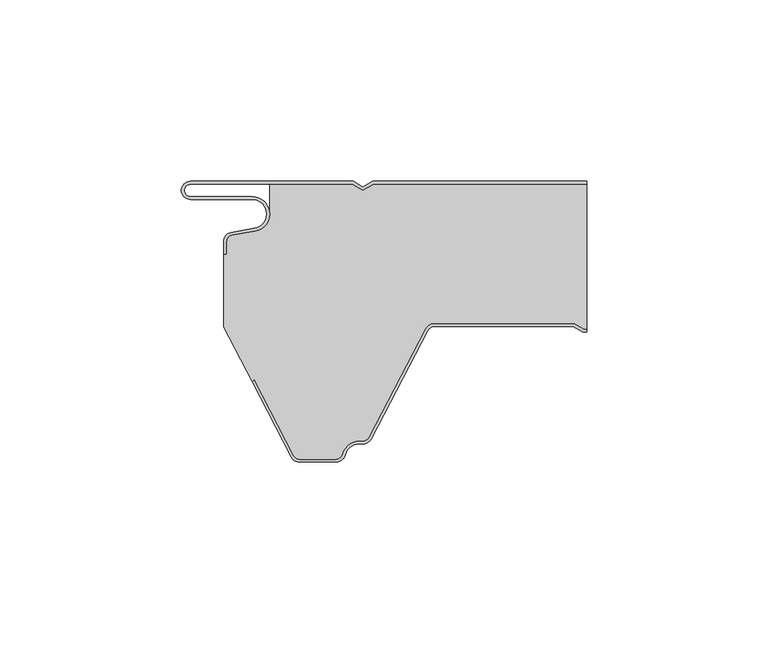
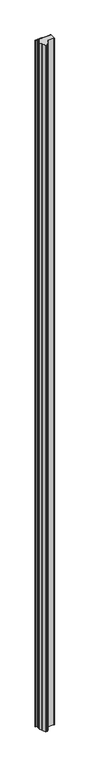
"""IFC4 building model written with IfcOpenShell, lengths in millimetres: plate geometry, P5G_5-Rib-Roof-Panel-PUR-PIR_Curtain-Panel : ACH_P5G_Rib-Roof-Panel-PIR-P5G_40mm."""

from ifc_helpers import new_model, si_unit, frame, origin, place, context, project, spatial, polyline, circle_curve, source, transform, mapped, element, save
from ifc_brep_helpers import plane_surface, cylinder_surface, revolved_surface, advanced_brep


def plate_fd8aca23(model_context):
    return source(origin(), model_context, "Body", "AdvancedBrep", [
        advanced_brep(
        [(-50.0, -16.636349, 5000.0), (-50.0, -20.0, 5000.0), (-49.2, -20.0, 5000.0), (-49.2, -16.636349, 5000.0), (-47.7125667, -14.863695, 5000.0), (-41.266489, -13.7270771, 5000.0), (-42.1, -4.2, 5000.0), (-59.1, -4.2, 5000.0), (-59.1, -0.8, 5000.0), (-14.5143588, -0.8, 5000.0), (-11.6, -2.4826072, 5000.0), (-8.6856412, -0.8, 5000.0), (50.0, -0.8, 5000.0), (50.0, 0.0, 5000.0), (-8.9000007, 0.0, 5000.0), (-11.6, -1.5588466, 5000.0), (-14.2999993, 0.0, 5000.0), (-59.1, 0.0, 5000.0), (-59.1, -5.0, 5000.0), (-42.1, -5.0, 5000.0), (-41.4054075, -12.939231, 5000.0), (-47.851485, -14.075848, 5000.0), (-50.0, -16.636349, 0.0), (-47.8514853, -14.0758488, 0.0), (-41.4054075, -12.9392309, 0.0), (-42.1, -5.0, 0.0), (-59.1, -5.0, 0.0), (-59.1, 0.0, 0.0), (-14.2999993, 0.0, 0.0), (-11.6, -1.5588466, 0.0), (-8.9000007, 0.0, 0.0), (50.0, 0.0, 0.0), (50.0, -0.8, 0.0), (-8.6856412, -0.8, 0.0), (-11.6, -2.4826072, 0.0), (-14.5143588, -0.8, 0.0), (-59.1, -0.8, 0.0), (-59.1, -4.2, 0.0), (-42.1, -4.2, 0.0), (-41.266489, -13.7270773, 0.0), (-47.7125665, -14.8636942, 0.0), (-49.2, -16.636349, 0.0), (-49.2, -20.0, 0.0), (-50.0, -20.0, 0.0)],
        [
            (0, 1),
            (1, 2),
            (2, 3),
            (3, 4, circle_curve(frame((-47.4, -16.636349, 5000.0), z_axis=(0.0, 0.0, -1.0), x_axis=(1.0, 0.0, 0.0)), 1.8)),
            (4, 5),
            (5, 6, circle_curve(frame((-42.1, -9.0, 5000.0), z_axis=(0.0, 0.0, 1.0), x_axis=(1.0, 0.0, 0.0)), 4.8)),
            (6, 7),
            (7, 8, circle_curve(frame((-59.1, -2.5, 5000.0), z_axis=(0.0, 0.0, -1.0), x_axis=(1.0, 0.0, 0.0)), 1.7)),
            (8, 9),
            (9, 10),
            (10, 11),
            (11, 12),
            (12, 13),
            (13, 14),
            (14, 15),
            (15, 16),
            (16, 17),
            (17, 18, circle_curve(frame((-59.1, -2.5, 5000.0), z_axis=(0.0, 0.0, 1.0), x_axis=(1.0, 0.0, 0.0)), 2.5)),
            (18, 19),
            (19, 20, circle_curve(frame((-42.1, -9.0, 5000.0), z_axis=(0.0, 0.0, -1.0), x_axis=(1.0, 0.0, 0.0)), 4.0)),
            (20, 21),
            (21, 0, circle_curve(frame((-47.4, -16.636349, 5000.0), z_axis=(0.0, 0.0, 1.0), x_axis=(1.0, 0.0, 0.0)), 2.6)),
            (22, 23, circle_curve(frame((-47.4, -16.636349, 0.0), z_axis=(0.0, 0.0, -1.0), x_axis=(1.0, 0.0, 0.0)), 2.6)),
            (23, 24),
            (24, 25, circle_curve(frame((-42.1, -9.0, 0.0), z_axis=(0.0, 0.0, 1.0), x_axis=(1.0, 0.0, 0.0)), 4.0)),
            (25, 26),
            (26, 27, circle_curve(frame((-59.1, -2.5, 0.0), z_axis=(0.0, 0.0, -1.0), x_axis=(1.0, 0.0, 0.0)), 2.5)),
            (27, 28),
            (28, 29),
            (29, 30),
            (30, 31),
            (31, 32),
            (32, 33),
            (33, 34),
            (34, 35),
            (35, 36),
            (36, 37, circle_curve(frame((-59.1, -2.5, 0.0), z_axis=(0.0, 0.0, 1.0), x_axis=(1.0, 0.0, 0.0)), 1.7)),
            (37, 38),
            (38, 39, circle_curve(frame((-42.1, -9.0, 0.0), z_axis=(0.0, 0.0, -1.0), x_axis=(1.0, 0.0, 0.0)), 4.8)),
            (39, 40),
            (40, 41, circle_curve(frame((-47.4, -16.636349, 0.0), z_axis=(0.0, 0.0, 1.0), x_axis=(1.0, 0.0, 0.0)), 1.8)),
            (41, 42),
            (42, 43),
            (43, 22),
            (0, 22),
            (43, 1),
            (42, 2),
            (41, 3),
            (40, 4),
            (39, 5),
            (38, 6),
            (37, 7),
            (36, 8),
            (35, 9),
            (34, 10),
            (33, 11),
            (32, 12),
            (30, 14),
            (13, 31),
            (29, 15),
            (28, 16),
            (27, 17),
            (26, 18),
            (25, 19),
            (24, 20),
            (23, 21),
        ],
        [
            plane_surface(frame((-50.0, 0.0, 5000.0), z_axis=(0.0, 0.0, 1.0), x_axis=(0.0, 1.0, 0.0))),
            plane_surface(frame((-50.0, 0.0, 0.0), z_axis=(0.0, 0.0, -1.0), x_axis=(0.0, 1.0, 0.0))),
            plane_surface(frame((-50.0, -16.636349, 5000.0), z_axis=(-1.0, 0.0, 0.0), x_axis=(0.0, 0.0, -1.0))),
            plane_surface(frame((-50.0, -20.0, 5000.0), z_axis=(0.0, -1.0, 0.0), x_axis=(0.0, 0.0, -1.0))),
            plane_surface(frame((-49.2, -20.0, 5000.0), z_axis=(1.0, 0.0, 0.0), x_axis=(0.0, 0.0, -1.0))),
            revolved_surface(polyline([(-45.6, -16.636349, 0.0), (-45.6, -16.636349, 5000.0)]), (-47.4, -16.636349, 5000.0), (0.0, 0.0, -1.0)),
            plane_surface(frame((-47.7125665, -14.8636942, 5000.0), z_axis=(0.17364813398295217, -0.9848077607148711, 0.0), x_axis=(0.0, 0.0, -1.0))),
            cylinder_surface(frame((-42.1, -9.0, 5000.0), z_axis=(0.0, 0.0, 1.0), x_axis=(1.0, 0.0, 0.0)), 4.8),
            plane_surface(frame((-42.1, -4.2, 5000.0), z_axis=(0.0, 1.0, 0.0), x_axis=(0.0, 0.0, -1.0))),
            revolved_surface(polyline([(-57.4, -2.5, 0.0), (-57.4, -2.5, 5000.0)]), (-59.1, -2.5, 5000.0), (0.0, 0.0, -1.0)),
            plane_surface(frame((-59.1, -0.8, 5000.0), z_axis=(0.0, -1.0, 0.0), x_axis=(0.0, 0.0, -1.0))),
            plane_surface(frame((-14.5143588, -0.8, 5000.0), z_axis=(-0.5000003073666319, -0.8660252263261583, 0.0), x_axis=(0.0, 0.0, -1.0))),
            plane_surface(frame((-11.6, -2.4826072, 5000.0), z_axis=(0.5000003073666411, -0.866025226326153, 0.0), x_axis=(0.0, 0.0, -1.0))),
            plane_surface(frame((-8.6856412, -0.8, 5000.0), z_axis=(0.0, -1.0, 0.0), x_axis=(0.0, 0.0, -1.0))),
            plane_surface(frame((85.7000007, 0.0, 5000.0), z_axis=(0.0, 1.0, 0.0), x_axis=(0.0, 0.0, -1.0))),
            plane_surface(frame((-8.9000007, 0.0, 5000.0), z_axis=(-0.5000003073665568, 0.8660252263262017, 0.0), x_axis=(0.0, 0.0, -1.0))),
            plane_surface(frame((-11.6, -1.5588466, 5000.0), z_axis=(0.5000003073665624, 0.8660252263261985, 0.0), x_axis=(0.0, 0.0, -1.0))),
            plane_surface(frame((-14.2999993, 0.0, 5000.0), z_axis=(0.0, 1.0, 0.0), x_axis=(0.0, 0.0, -1.0))),
            cylinder_surface(frame((-59.1, -2.5, 5000.0), z_axis=(0.0, 0.0, 1.0), x_axis=(1.0, 0.0, 0.0)), 2.5),
            plane_surface(frame((-59.1, -5.0, 5000.0), z_axis=(0.0, -1.0, 0.0), x_axis=(0.0, 0.0, -1.0))),
            revolved_surface(polyline([(-38.1, -9.0, 0.0), (-38.1, -9.0, 5000.0)]), (-42.1, -9.0, 5000.0), (0.0, 0.0, -1.0)),
            plane_surface(frame((-41.4054075, -12.9392309, 5000.0), z_axis=(-0.17364813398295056, 0.9848077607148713, 0.0), x_axis=(0.0, 0.0, -1.0))),
            cylinder_surface(frame((-47.4, -16.636349, 5000.0), z_axis=(0.0, 0.0, 1.0), x_axis=(1.0, 0.0, 0.0)), 2.6),
            plane_surface(frame((50.0, 0.0, 5000.0), z_axis=(1.0, 0.0, 0.0), x_axis=(0.0, 0.0, -1.0))),
        ],
        [
            (0, [[1, 2, 3, 4, 5, 6, 7, 8, 9, 10, 11, 12, 13, 14, 15, 16, 17, 18, 19, 20, 21, 22]]),
            (1, [[23, 24, 25, 26, 27, 28, 29, 30, 31, 32, 33, 34, 35, 36, 37, 38, 39, 40, 41, 42, 43, 44]]),
            (2, [[-1, 45, -44, 46]]),
            (3, [[-2, -46, -43, 47]]),
            (4, [[-3, -47, -42, 48]]),
            (5, [[-4, -48, -41, 49]]),
            (6, [[-5, -49, -40, 50]]),
            (7, [[-6, -50, -39, 51]]),
            (8, [[-7, -51, -38, 52]]),
            (9, [[-8, -52, -37, 53]]),
            (10, [[-9, -53, -36, 54]]),
            (11, [[-10, -54, -35, 55]]),
            (12, [[-11, -55, -34, 56]]),
            (13, [[-56, -33, 57, -12]]),
            (14, [[58, -14, 59, -31]]),
            (15, [[-15, -58, -30, 60]]),
            (16, [[-16, -60, -29, 61]]),
            (17, [[-17, -61, -28, 62]]),
            (18, [[-18, -62, -27, 63]]),
            (19, [[-19, -63, -26, 64]]),
            (20, [[-20, -64, -25, 65]]),
            (21, [[-21, -65, -24, 66]]),
            (22, [[-22, -66, -23, -45]]),
            (23, [[-13, -57, -32, -59]]),
        ],
    ),
        advanced_brep(
        [(-30.6207387, -75.6314818, 0.0), (-41.5569015, -54.6340495, 0.0), (-42.1499858, -55.2271753, 0.0), (-50.0, -40.1551481, 0.0), (-50.0, -20.0, 0.0), (-49.2, -20.0, 0.0), (-49.2, -16.636349, 0.0), (-47.7125653, -14.8636948, 0.0), (-41.2664891, -13.7270773, 0.0), (-37.3182654, -8.5816526, 0.0), (-37.3182654, -0.8, 0.0), (-14.5143588, -0.8, 0.0), (-11.6, -2.4826072, 0.0), (-8.6856412, -0.8, 0.0), (50.0, -0.8, 0.0), (50.0, -40.7, 0.0), (49.2107961, -40.7, 0.0), (46.6127185, -39.2, 0.0), (8.090871, -39.2, 0.0), (5.6075115, -40.7065836, 0.0), (-9.9783733, -70.6314825, 0.0), (-11.574819, -71.6, 0.0), (-12.6272901, -71.6, 0.0), (-17.2841077, -75.2363636, 0.0), (-19.030414, -76.5999997, 0.0), (-29.024293, -76.5999997, 0.0), (-30.6207383, -75.6314813, 5000.0), (-29.024293, -76.5999997, 5000.0), (-19.030414, -76.5999997, 5000.0), (-17.2841077, -75.2363636, 5000.0), (-12.6272901, -71.6, 5000.0), (-11.574819, -71.6, 5000.0), (-9.9783737, -70.631482, 5000.0), (5.6075107, -40.7065835, 5000.0), (8.090871, -39.2, 5000.0), (46.6127185, -39.2, 5000.0), (49.2107961, -40.7, 5000.0), (50.0, -40.7, 5000.0), (50.0, -0.8, 5000.0), (-8.6856412, -0.8, 5000.0), (-11.6, -2.4826072, 5000.0), (-14.5143588, -0.8, 5000.0), (-37.3182654, -0.8, 5000.0), (-37.3182654, -8.5816526, 5000.0), (-41.2664891, -13.7270773, 5000.0), (-47.7125651, -14.863694, 5000.0), (-49.2, -16.636349, 5000.0), (-49.2, -20.0, 5000.0), (-50.0, -20.0, 5000.0), (-50.0, -40.1551481, 5000.0), (-42.1499858, -55.2271753, 5000.0), (-41.5569015, -54.6340495, 5000.0)],
        [
            (0, 1),
            (1, 2),
            (2, 3),
            (3, 4),
            (4, 5),
            (5, 6),
            (6, 7, circle_curve(frame((-47.4, -16.636349, 0.0), z_axis=(0.0, 0.0, -1.0), x_axis=(-1.0, 0.0, 0.0)), 1.8)),
            (7, 8),
            (8, 9, circle_curve(frame((-42.1, -9.0, 0.0), z_axis=(0.0, 0.0, 1.0), x_axis=(-1.0, 0.0, 0.0)), 4.8)),
            (9, 10),
            (10, 11),
            (11, 12),
            (12, 13),
            (13, 14),
            (14, 15),
            (15, 16),
            (16, 17),
            (17, 18),
            (18, 19, circle_curve(frame((8.090871, -42.0, 0.0), z_axis=(0.0, 0.0, 1.0), x_axis=(-1.0, 0.0, 0.0)), 2.8)),
            (19, 20),
            (20, 21, circle_curve(frame((-11.574819, -69.8, 0.0), z_axis=(0.0, 0.0, -1.0), x_axis=(-1.0, 0.0, 0.0)), 1.8)),
            (21, 22),
            (22, 23, circle_curve(frame((-12.6272901, -76.4, 0.0), z_axis=(0.0, 0.0, 1.0), x_axis=(-1.0, 0.0, 0.0)), 4.8)),
            (23, 24, circle_curve(frame((-19.030414, -74.8, 0.0), z_axis=(0.0, 0.0, -1.0), x_axis=(-1.0, 0.0, 0.0)), 1.7999997)),
            (24, 25),
            (25, 0, circle_curve(frame((-29.024293, -74.8, 0.0), z_axis=(0.0, 0.0, -1.0), x_axis=(-1.0, 0.0, 0.0)), 1.7999997)),
            (26, 27, circle_curve(frame((-29.024293, -74.8, 5000.0), z_axis=(0.0, 0.0, 1.0), x_axis=(-1.0, 0.0, 0.0)), 1.7999997)),
            (27, 28),
            (28, 29, circle_curve(frame((-19.030414, -74.8, 5000.0), z_axis=(0.0, 0.0, 1.0), x_axis=(-1.0, 0.0, 0.0)), 1.7999997)),
            (29, 30, circle_curve(frame((-12.6272901, -76.4, 5000.0), z_axis=(0.0, 0.0, -1.0), x_axis=(-1.0, 0.0, 0.0)), 4.8)),
            (30, 31),
            (31, 32, circle_curve(frame((-11.574819, -69.8, 5000.0), z_axis=(0.0, 0.0, 1.0), x_axis=(-1.0, 0.0, 0.0)), 1.8)),
            (32, 33),
            (33, 34, circle_curve(frame((8.090871, -42.0, 5000.0), z_axis=(0.0, 0.0, -1.0), x_axis=(-1.0, 0.0, 0.0)), 2.8)),
            (34, 35),
            (35, 36),
            (36, 37),
            (37, 38),
            (38, 39),
            (39, 40),
            (40, 41),
            (41, 42),
            (42, 43),
            (43, 44, circle_curve(frame((-42.1, -9.0, 5000.0), z_axis=(0.0, 0.0, -1.0), x_axis=(-1.0, 0.0, 0.0)), 4.8)),
            (44, 45),
            (45, 46, circle_curve(frame((-47.4, -16.636349, 5000.0), z_axis=(0.0, 0.0, 1.0), x_axis=(-1.0, 0.0, 0.0)), 1.8)),
            (46, 47),
            (47, 48),
            (48, 49),
            (49, 50),
            (50, 51),
            (51, 26),
            (0, 26),
            (51, 1),
            (50, 2),
            (49, 3),
            (48, 4),
            (47, 5),
            (46, 6),
            (45, 7),
            (44, 8),
            (43, 9),
            (42, 10),
            (41, 11),
            (40, 12),
            (39, 13),
            (38, 14),
            (36, 16),
            (15, 37),
            (35, 17),
            (34, 18),
            (33, 19),
            (32, 20),
            (31, 21),
            (30, 22),
            (29, 23),
            (28, 24),
            (27, 25),
        ],
        [
            plane_surface(frame((-50.0, 0.0, 0.0), z_axis=(0.0, 0.0, -1.0), x_axis=(0.0, 1.0, 0.0))),
            plane_surface(frame((-50.0, 0.0, 5000.0), z_axis=(0.0, 0.0, 1.0), x_axis=(0.0, 1.0, 0.0))),
            plane_surface(frame((-30.6207387, -75.6314818, 0.0), z_axis=(-0.8869140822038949, -0.4619344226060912, 0.0), x_axis=(0.0, 0.0, 1.0))),
            plane_surface(frame((-41.5569015, -54.6340495, 0.0), z_axis=(0.7071314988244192, -0.7070820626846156, 0.0), x_axis=(0.0, 0.0, 1.0))),
            plane_surface(frame((-42.1499858, -55.2271753, 0.0), z_axis=(-0.8869140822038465, -0.46193442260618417, 0.0), x_axis=(0.0, 0.0, 1.0))),
            plane_surface(frame((-50.0, -40.1551481, 0.0), z_axis=(-1.0, 0.0, 0.0), x_axis=(0.0, 0.0, 1.0))),
            plane_surface(frame((-50.0, -20.0, 0.0), z_axis=(0.0, 1.0, 0.0), x_axis=(0.0, 0.0, 1.0))),
            plane_surface(frame((-49.2, -20.0, 0.0), z_axis=(-1.0, 0.0, 0.0), x_axis=(0.0, 0.0, 1.0))),
            cylinder_surface(frame((-47.4, -16.636349, 0.0), z_axis=(0.0, 0.0, -1.0), x_axis=(-1.0, 0.0, 0.0)), 1.8),
            plane_surface(frame((-47.7125651, -14.863694, 0.0), z_axis=(-0.17364811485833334, 0.9848077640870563, 0.0), x_axis=(0.0, 0.0, 1.0))),
            revolved_surface(polyline([(-46.9, -9.0, 5000.0), (-46.9, -9.0, 0.0)]), (-42.1, -9.0, 0.0), (0.0, 0.0, 1.0)),
            plane_surface(frame((-37.3182654, -8.5816526, 0.0), z_axis=(-1.0, 0.0, 0.0), x_axis=(0.0, 0.0, 1.0))),
            plane_surface(frame((-37.3182654, -0.8, 0.0), z_axis=(0.0, 1.0, 0.0), x_axis=(0.0, 0.0, 1.0))),
            plane_surface(frame((-14.5143588, -0.8, 0.0), z_axis=(0.500000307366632, 0.8660252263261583, 0.0), x_axis=(0.0, 0.0, 1.0))),
            plane_surface(frame((-11.6, -2.4826072, 0.0), z_axis=(-0.500000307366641, 0.8660252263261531, 0.0), x_axis=(0.0, 0.0, 1.0))),
            plane_surface(frame((-8.6856412, -0.8, 0.0), z_axis=(0.0, 1.0, 0.0), x_axis=(0.0, 0.0, 1.0))),
            plane_surface(frame((81.5859248, -40.7, 0.0), z_axis=(0.0, -1.0, 0.0), x_axis=(0.0, 0.0, 1.0))),
            plane_surface(frame((49.2107961, -40.7, 0.0), z_axis=(-0.49999979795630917, -0.8660255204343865, 0.0), x_axis=(0.0, 0.0, 1.0))),
            plane_surface(frame((46.6127185, -39.2, 0.0), z_axis=(0.0, -1.0, 0.0), x_axis=(0.0, 0.0, 1.0))),
            revolved_surface(polyline([(5.290871, -42.0, 5000.0), (5.290871, -42.0, 0.0)]), (8.090871, -42.0, 0.0), (0.0, 0.0, 1.0)),
            plane_surface(frame((5.6075107, -40.7065835, 0.0), z_axis=(0.8869140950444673, -0.46193439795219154, 0.0), x_axis=(0.0, 0.0, 1.0))),
            cylinder_surface(frame((-11.574819, -69.8, 0.0), z_axis=(0.0, 0.0, -1.0), x_axis=(-1.0, 0.0, 0.0)), 1.8),
            plane_surface(frame((-11.574819, -71.6, 0.0), z_axis=(0.0, -1.0, 0.0), x_axis=(0.0, 0.0, 1.0))),
            revolved_surface(polyline([(-17.4272901, -76.4, 5000.0), (-17.4272901, -76.4, 0.0)]), (-12.6272901, -76.4, 0.0), (0.0, 0.0, 1.0)),
            cylinder_surface(frame((-19.030414, -74.8, 0.0), z_axis=(0.0, 0.0, -1.0), x_axis=(-1.0, 0.0, 0.0)), 1.7999997),
            plane_surface(frame((-19.030414, -76.5999997, 0.0), z_axis=(0.0, -1.0, 0.0), x_axis=(0.0, 0.0, 1.0))),
            cylinder_surface(frame((-29.024293, -74.8, 0.0), z_axis=(0.0, 0.0, -1.0), x_axis=(-1.0, 0.0, 0.0)), 1.7999997),
            plane_surface(frame((50.0, 0.0, 5000.0), z_axis=(1.0, 0.0, 0.0), x_axis=(0.0, 0.0, -1.0))),
        ],
        [
            (0, [[1, 2, 3, 4, 5, 6, 7, 8, 9, 10, 11, 12, 13, 14, 15, 16, 17, 18, 19, 20, 21, 22, 23, 24, 25, 26]]),
            (1, [[27, 28, 29, 30, 31, 32, 33, 34, 35, 36, 37, 38, 39, 40, 41, 42, 43, 44, 45, 46, 47, 48, 49, 50, 51, 52]]),
            (2, [[-1, 53, -52, 54]]),
            (3, [[-2, -54, -51, 55]]),
            (4, [[-3, -55, -50, 56]]),
            (5, [[-4, -56, -49, 57]]),
            (6, [[-5, -57, -48, 58]]),
            (7, [[-6, -58, -47, 59]]),
            (8, [[-7, -59, -46, 60]]),
            (9, [[-8, -60, -45, 61]]),
            (10, [[-9, -61, -44, 62]]),
            (11, [[-10, -62, -43, 63]]),
            (12, [[-11, -63, -42, 64]]),
            (13, [[-12, -64, -41, 65]]),
            (14, [[-13, -65, -40, 66]]),
            (15, [[-66, -39, 67, -14]]),
            (16, [[68, -16, 69, -37]]),
            (17, [[-17, -68, -36, 70]]),
            (18, [[-18, -70, -35, 71]]),
            (19, [[-19, -71, -34, 72]]),
            (20, [[-20, -72, -33, 73]]),
            (21, [[-21, -73, -32, 74]]),
            (22, [[-22, -74, -31, 75]]),
            (23, [[-23, -75, -30, 76]]),
            (24, [[-24, -76, -29, 77]]),
            (25, [[-25, -77, -28, 78]]),
            (26, [[-26, -78, -27, -53]]),
            (27, [[-15, -67, -38, -69]]),
        ],
    ),
        advanced_brep(
        [(49.2107962, -40.7, 5000.0), (46.6127186, -39.2, 5000.0), (8.090871, -39.2, 5000.0), (5.6075116, -40.7065836, 5000.0), (-9.9783733, -70.6314825, 5000.0), (-11.574819, -71.6, 5000.0), (-12.62729, -71.6, 5000.0), (-17.2841076, -75.2363636, 5000.0), (-19.030414, -76.6, 5000.0), (-29.024293, -76.6, 5000.0), (-30.6207383, -75.631482, 5000.0), (-41.5569015, -54.6340495, 5000.0), (-42.15, -55.227148, 5000.0), (-31.33027, -76.00103, 5000.0), (-29.024293, -77.4, 5000.0), (-19.030414, -77.4, 5000.0), (-16.5079711, -75.4303031, 5000.0), (-12.62729, -72.4, 5000.0), (-11.574819, -72.4, 5000.0), (-9.2688424, -71.0010295, 5000.0), (6.317042, -41.076131, 5000.0), (8.090871, -40.0, 5000.0), (46.3983593, -40.0, 5000.0), (48.9964369, -41.5, 5000.0), (50.0, -41.5, 5000.0), (50.0, -40.7, 5000.0), (48.9964369, -41.5, 0.0), (46.3983593, -40.0, 0.0), (8.090871, -40.0, 0.0), (6.3170428, -41.0761312, 0.0), (-9.268842, -71.00103, 0.0), (-11.574819, -72.4, 0.0), (-12.62729, -72.4, 0.0), (-16.5079713, -75.430303, 0.0), (-19.030414, -77.4, 0.0), (-29.024293, -77.4, 0.0), (-31.3302696, -76.0010295, 0.0), (-42.15, -55.227148, 0.0), (-41.5569015, -54.6340495, 0.0), (-30.6207387, -75.6314825, 0.0), (-29.024293, -76.6, 0.0), (-19.030414, -76.6, 0.0), (-17.2841074, -75.2363637, 0.0), (-12.62729, -71.6, 0.0), (-11.574819, -71.6, 0.0), (-9.9783737, -70.631482, 0.0), (5.6075107, -40.7065835, 0.0), (8.090871, -39.2, 0.0), (46.6127186, -39.2, 0.0), (49.2107962, -40.7, 0.0), (50.0, -40.7, 0.0), (50.0, -41.5, 0.0)],
        [
            (0, 1),
            (1, 2),
            (2, 3, circle_curve(frame((8.090871, -42.0, 5000.0), z_axis=(0.0, 0.0, 1.0), x_axis=(1.0, 0.0, 0.0)), 2.8)),
            (3, 4),
            (4, 5, circle_curve(frame((-11.574819, -69.8, 5000.0), z_axis=(0.0, 0.0, -1.0), x_axis=(1.0, 0.0, 0.0)), 1.8)),
            (5, 6),
            (6, 7, circle_curve(frame((-12.62729, -76.4, 5000.0), z_axis=(0.0, 0.0, 1.0), x_axis=(1.0, 0.0, 0.0)), 4.8)),
            (7, 8, circle_curve(frame((-19.030414, -74.8, 5000.0), z_axis=(0.0, 0.0, -1.0), x_axis=(1.0, 0.0, 0.0)), 1.8)),
            (8, 9),
            (9, 10, circle_curve(frame((-29.024293, -74.8, 5000.0), z_axis=(0.0, 0.0, -1.0), x_axis=(1.0, 0.0, 0.0)), 1.8)),
            (10, 11),
            (11, 12),
            (12, 13),
            (13, 14, circle_curve(frame((-29.024293, -74.8, 5000.0), z_axis=(0.0, 0.0, 1.0), x_axis=(1.0, 0.0, 0.0)), 2.6)),
            (14, 15),
            (15, 16, circle_curve(frame((-19.030414, -74.8, 5000.0), z_axis=(0.0, 0.0, 1.0), x_axis=(1.0, 0.0, 0.0)), 2.6)),
            (16, 17, circle_curve(frame((-12.62729, -76.4, 5000.0), z_axis=(0.0, 0.0, -1.0), x_axis=(1.0, 0.0, 0.0)), 4.0)),
            (17, 18),
            (18, 19, circle_curve(frame((-11.574819, -69.8, 5000.0), z_axis=(0.0, 0.0, 1.0), x_axis=(1.0, 0.0, 0.0)), 2.6)),
            (19, 20),
            (20, 21, circle_curve(frame((8.090871, -42.0, 5000.0), z_axis=(0.0, 0.0, -1.0), x_axis=(1.0, 0.0, 0.0)), 2.0)),
            (21, 22),
            (22, 23),
            (23, 24),
            (24, 25),
            (25, 0),
            (26, 27),
            (27, 28),
            (28, 29, circle_curve(frame((8.090871, -42.0, 0.0), z_axis=(0.0, 0.0, 1.0), x_axis=(1.0, 0.0, 0.0)), 2.0)),
            (29, 30),
            (30, 31, circle_curve(frame((-11.574819, -69.8, 0.0), z_axis=(0.0, 0.0, -1.0), x_axis=(1.0, 0.0, 0.0)), 2.6)),
            (31, 32),
            (32, 33, circle_curve(frame((-12.62729, -76.4, 0.0), z_axis=(0.0, 0.0, 1.0), x_axis=(1.0, 0.0, 0.0)), 4.0)),
            (33, 34, circle_curve(frame((-19.030414, -74.8, 0.0), z_axis=(0.0, 0.0, -1.0), x_axis=(1.0, 0.0, 0.0)), 2.6)),
            (34, 35),
            (35, 36, circle_curve(frame((-29.024293, -74.8, 0.0), z_axis=(0.0, 0.0, -1.0), x_axis=(1.0, 0.0, 0.0)), 2.6)),
            (36, 37),
            (37, 38),
            (38, 39),
            (39, 40, circle_curve(frame((-29.024293, -74.8, 0.0), z_axis=(0.0, 0.0, 1.0), x_axis=(1.0, 0.0, 0.0)), 1.8)),
            (40, 41),
            (41, 42, circle_curve(frame((-19.030414, -74.8, 0.0), z_axis=(0.0, 0.0, 1.0), x_axis=(1.0, 0.0, 0.0)), 1.8)),
            (42, 43, circle_curve(frame((-12.62729, -76.4, 0.0), z_axis=(0.0, 0.0, -1.0), x_axis=(1.0, 0.0, 0.0)), 4.8)),
            (43, 44),
            (44, 45, circle_curve(frame((-11.574819, -69.8, 0.0), z_axis=(0.0, 0.0, 1.0), x_axis=(1.0, 0.0, 0.0)), 1.8)),
            (45, 46),
            (46, 47, circle_curve(frame((8.090871, -42.0, 0.0), z_axis=(0.0, 0.0, -1.0), x_axis=(1.0, 0.0, 0.0)), 2.8)),
            (47, 48),
            (48, 49),
            (49, 50),
            (50, 51),
            (51, 26),
            (49, 0),
            (25, 50),
            (48, 1),
            (47, 2),
            (46, 3),
            (45, 4),
            (44, 5),
            (43, 6),
            (42, 7),
            (41, 8),
            (40, 9),
            (39, 10),
            (38, 11),
            (37, 12),
            (36, 13),
            (35, 14),
            (34, 15),
            (33, 16),
            (32, 17),
            (31, 18),
            (30, 19),
            (29, 20),
            (28, 21),
            (27, 22),
            (26, 23),
            (51, 24),
        ],
        [
            plane_surface(frame((-50.0, -40.0, 5000.0), z_axis=(0.0, 0.0, 1.0), x_axis=(0.0, 1.0, 0.0))),
            plane_surface(frame((-50.0, -40.0, 0.0), z_axis=(0.0, 0.0, -1.0), x_axis=(0.0, 1.0, 0.0))),
            plane_surface(frame((81.5859248, -40.7, 5000.0), z_axis=(0.0, 1.0, 0.0), x_axis=(0.0, 0.0, -1.0))),
            plane_surface(frame((49.2107962, -40.7, 5000.0), z_axis=(0.4999997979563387, 0.8660255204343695, 0.0), x_axis=(0.0, 0.0, -1.0))),
            plane_surface(frame((46.6127186, -39.2, 5000.0), z_axis=(0.0, 1.0, 0.0), x_axis=(0.0, 0.0, -1.0))),
            cylinder_surface(frame((8.090871, -42.0, 5000.0), z_axis=(0.0, 0.0, 1.0), x_axis=(1.0, 0.0, 0.0)), 2.8),
            plane_surface(frame((5.6075107, -40.7065835, 5000.0), z_axis=(-0.8869140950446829, 0.4619343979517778, 0.0), x_axis=(0.0, 0.0, -1.0))),
            revolved_surface(polyline([(-9.774818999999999, -69.8, 0.0), (-9.774818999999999, -69.8, 5000.0)]), (-11.574819, -69.8, 5000.0), (0.0, 0.0, -1.0)),
            plane_surface(frame((-11.574819, -71.6, 5000.0), z_axis=(0.0, 1.0, 0.0), x_axis=(0.0, 0.0, -1.0))),
            cylinder_surface(frame((-12.62729, -76.4, 5000.0), z_axis=(0.0, 0.0, 1.0), x_axis=(1.0, 0.0, 0.0)), 4.8),
            revolved_surface(polyline([(-17.230414, -74.8, 0.0), (-17.230414, -74.8, 5000.0)]), (-19.030414, -74.8, 5000.0), (0.0, 0.0, -1.0)),
            plane_surface(frame((-19.030414, -76.6, 5000.0), z_axis=(0.0, 1.0, 0.0), x_axis=(0.0, 0.0, -1.0))),
            revolved_surface(polyline([(-27.224293, -74.8, 0.0), (-27.224293, -74.8, 5000.0)]), (-29.024293, -74.8, 5000.0), (0.0, 0.0, -1.0)),
            plane_surface(frame((-30.6207387, -75.6314825, 5000.0), z_axis=(0.8869140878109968, 0.46193441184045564, 0.0), x_axis=(0.0, 0.0, -1.0))),
            plane_surface(frame((-41.5569015, -54.6340495, 5000.0), z_axis=(-0.7071067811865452, 0.7071067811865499, 0.0), x_axis=(0.0, 0.0, -1.0))),
            plane_surface(frame((-42.15, -55.227148, 5000.0), z_axis=(-0.8869140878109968, -0.46193441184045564, 0.0), x_axis=(0.0, 0.0, -1.0))),
            cylinder_surface(frame((-29.024293, -74.8, 5000.0), z_axis=(0.0, 0.0, 1.0), x_axis=(1.0, 0.0, 0.0)), 2.6),
            plane_surface(frame((-29.024293, -77.4, 5000.0), z_axis=(0.0, -1.0, 0.0), x_axis=(0.0, 0.0, -1.0))),
            cylinder_surface(frame((-19.030414, -74.8, 5000.0), z_axis=(0.0, 0.0, 1.0), x_axis=(1.0, 0.0, 0.0)), 2.6),
            revolved_surface(polyline([(-8.62729, -76.4, 0.0), (-8.62729, -76.4, 5000.0)]), (-12.62729, -76.4, 5000.0), (0.0, 0.0, -1.0)),
            plane_surface(frame((-12.62729, -72.4, 5000.0), z_axis=(0.0, -1.0, 0.0), x_axis=(0.0, 0.0, -1.0))),
            cylinder_surface(frame((-11.574819, -69.8, 5000.0), z_axis=(0.0, 0.0, 1.0), x_axis=(1.0, 0.0, 0.0)), 2.6),
            plane_surface(frame((-9.268842, -71.00103, 5000.0), z_axis=(0.8869140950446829, -0.4619343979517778, 0.0), x_axis=(0.0, 0.0, -1.0))),
            revolved_surface(polyline([(10.090871, -42.0, 0.0), (10.090871, -42.0, 5000.0)]), (8.090871, -42.0, 5000.0), (0.0, 0.0, -1.0)),
            plane_surface(frame((8.090871, -40.0, 5000.0), z_axis=(0.0, -1.0, 0.0), x_axis=(0.0, 0.0, -1.0))),
            plane_surface(frame((46.3983593, -40.0, 5000.0), z_axis=(-0.4999997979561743, -0.8660255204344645, 0.0), x_axis=(0.0, 0.0, -1.0))),
            plane_surface(frame((48.9964369, -41.5, 5000.0), z_axis=(0.0, -1.0, 0.0), x_axis=(0.0, 0.0, -1.0))),
            plane_surface(frame((50.0, 0.0, 5000.0), z_axis=(1.0, 0.0, 0.0), x_axis=(0.0, 0.0, -1.0))),
        ],
        [
            (0, [[1, 2, 3, 4, 5, 6, 7, 8, 9, 10, 11, 12, 13, 14, 15, 16, 17, 18, 19, 20, 21, 22, 23, 24, 25, 26]]),
            (1, [[27, 28, 29, 30, 31, 32, 33, 34, 35, 36, 37, 38, 39, 40, 41, 42, 43, 44, 45, 46, 47, 48, 49, 50, 51, 52]]),
            (2, [[53, -26, 54, -50]]),
            (3, [[-1, -53, -49, 55]]),
            (4, [[-2, -55, -48, 56]]),
            (5, [[-3, -56, -47, 57]]),
            (6, [[-4, -57, -46, 58]]),
            (7, [[-5, -58, -45, 59]]),
            (8, [[-6, -59, -44, 60]]),
            (9, [[-7, -60, -43, 61]]),
            (10, [[-8, -61, -42, 62]]),
            (11, [[-9, -62, -41, 63]]),
            (12, [[-10, -63, -40, 64]]),
            (13, [[-11, -64, -39, 65]]),
            (14, [[-12, -65, -38, 66]]),
            (15, [[-13, -66, -37, 67]]),
            (16, [[-14, -67, -36, 68]]),
            (17, [[-15, -68, -35, 69]]),
            (18, [[-16, -69, -34, 70]]),
            (19, [[-17, -70, -33, 71]]),
            (20, [[-18, -71, -32, 72]]),
            (21, [[-19, -72, -31, 73]]),
            (22, [[-20, -73, -30, 74]]),
            (23, [[-21, -74, -29, 75]]),
            (24, [[-22, -75, -28, 76]]),
            (25, [[-23, -76, -27, 77]]),
            (26, [[-77, -52, 78, -24]]),
            (27, [[-25, -78, -51, -54]]),
        ],
    ),
    ])


if __name__ == "__main__":
    model = new_model("IFC4")
    model_context = context("Model", 3, world=origin())
    ifc_project = project(units=[si_unit("LENGTHUNIT", "METRE", prefix="MILLI")], contexts=[model_context])
    site = spatial("IfcSite", under=ifc_project)
    building = spatial("IfcBuilding", under=site)
    placement = place(None, origin())
    plate_shape = plate_fd8aca23(model_context)
    element("IfcPlate", 1, ObjectType="P5G_5-Rib-Roof-Panel-PUR-PIR_Curtain-Panel : ACH_P5G_Rib-Roof-Panel-PIR-P5G_40mm", at=placement, inside=building, context=model_context, shape_type="MappedRepresentation", body=[
        mapped(plate_shape, transform((0.0, 0.0, 0.0), x_axis=(1.0, 0.0, 0.0), y_axis=(0.0, 1.0, 0.0), z_axis=(0.0, 0.0, 1.0))),
    ])
    save(model, "model.ifc")
